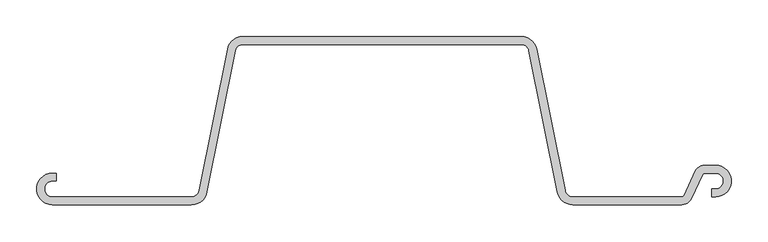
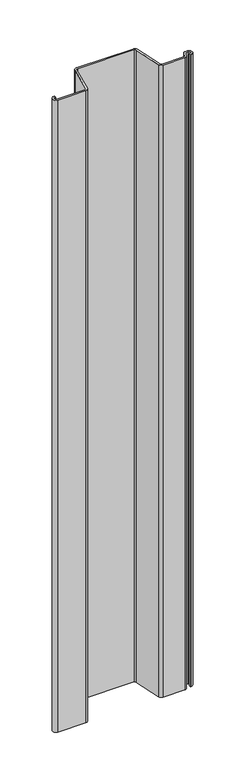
"""IFC4 building model written with IfcOpenShell, lengths in millimetres: proxy geometry, 鋼矢板10H型 : 鋼矢板10H型."""

from ifc_helpers import new_model, si_unit, point, frame, frame_2d, origin, place, context, project, spatial, polyline, circle_curve, trimmed, segment, composite_curve, outline, extrude, source, transform, mapped, element, save


def generic_models_cdec1266(model_context):
    return source(origin(), model_context, "Body", "SweptSolid", [
        extrude(outline(composite_curve([segment(trimmed(circle_curve(frame_2d((409.1972607, -101.1142857)), 13.8857143), [point((421.7819917, -106.9826421))], [point((409.1972607, -115.0))], False, "CARTESIAN"), True, "CONTINUOUS"), segment(polyline([(409.1972607, -115.0), (260.2008232, -115.0)]), True, "CONTINUOUS"), segment(trimmed(circle_curve(frame_2d((260.2008232, -93.4)), 21.6), [point((260.2008232, -115.0))], [point((239.0202806, -97.6361085))], False, "CARTESIAN"), True, "CONTINUOUS"), segment(polyline([(239.0202806, -97.6361085), (200.3894481, 95.5180543)]), True, "CONTINUOUS"), segment(trimmed(circle_curve(frame_2d((189.7991768, 93.4)), 10.8), [point((200.3894481, 95.5180543))], [point((189.7991768, 104.2))], True, "CARTESIAN"), True, "CONTINUOUS"), segment(polyline([(189.7991768, 104.2), (-189.7991768, 104.2)]), True, "CONTINUOUS"), segment(trimmed(circle_curve(frame_2d((-189.7991768, 93.4)), 10.8), [point((-189.7991768, 104.2))], [point((-200.3894481, 95.5180543))], True, "CARTESIAN"), True, "CONTINUOUS"), segment(polyline([(-200.3894481, 95.5180543), (-239.0202806, -97.6361085)]), True, "CONTINUOUS"), segment(trimmed(circle_curve(frame_2d((-260.2008232, -93.4)), 21.6), [point((-239.0202806, -97.6361085))], [point((-260.2008232, -115.0))], False, "CARTESIAN"), True, "CONTINUOUS"), segment(polyline([(-260.2008232, -115.0), (-450.0, -115.0)]), True, "CONTINUOUS"), segment(trimmed(circle_curve(frame_2d((-450.0, -93.4)), 21.6), [point((-450.0, -115.0))], [point((-450.0, -71.8))], False, "CARTESIAN"), True, "CONTINUOUS"), segment(polyline([(-450.0, -71.8), (-445.0, -71.8), (-445.0, -82.6), (-450.0, -82.6)]), True, "CONTINUOUS"), segment(trimmed(circle_curve(frame_2d((-450.0, -93.4)), 10.8), [point((-450.0, -82.6))], [point((-450.0, -104.2))], True, "CARTESIAN"), True, "CONTINUOUS"), segment(polyline([(-450.0, -104.2), (-260.2008232, -104.2)]), True, "CONTINUOUS"), segment(trimmed(circle_curve(frame_2d((-260.2008232, -93.4)), 10.8), [point((-260.2008232, -104.2))], [point((-249.6105519, -95.5180543))], True, "CARTESIAN"), True, "CONTINUOUS"), segment(polyline([(-249.6105519, -95.5180543), (-210.9797194, 97.6361085)]), True, "CONTINUOUS"), segment(trimmed(circle_curve(frame_2d((-189.7991768, 93.4)), 21.6), [point((-210.9797194, 97.6361085))], [point((-189.7991768, 115.0))], False, "CARTESIAN"), True, "CONTINUOUS"), segment(polyline([(-189.7991768, 115.0), (189.7991768, 115.0)]), True, "CONTINUOUS"), segment(trimmed(circle_curve(frame_2d((189.7991768, 93.4)), 21.6), [point((189.7991768, 115.0))], [point((210.9797194, 97.6361085))], False, "CARTESIAN"), True, "CONTINUOUS"), segment(polyline([(210.9797194, 97.6361085), (249.6105519, -95.5180543)]), True, "CONTINUOUS"), segment(trimmed(circle_curve(frame_2d((260.2008232, -93.4)), 10.8), [point((249.6105519, -95.5180543))], [point((260.2008232, -104.2))], True, "CARTESIAN"), True, "CONTINUOUS"), segment(polyline([(260.2008232, -104.2), (409.1972607, -104.2)]), True, "CONTINUOUS"), segment(trimmed(circle_curve(frame_2d((409.1972607, -101.1142857)), 3.0857143), [point((409.1972607, -104.2))], [point((411.9938676, -102.4183649))], True, "CARTESIAN"), True, "CONTINUOUS"), segment(polyline([(411.9938676, -102.4183649), (427.569013, -69.0173579)]), True, "CONTINUOUS"), segment(trimmed(circle_curve(frame_2d((440.153744, -74.8857143)), 13.8857143), [point((427.569013, -69.0173579))], [point((440.153744, -61.0))], False, "CARTESIAN"), True, "CONTINUOUS"), segment(polyline([(440.153744, -61.0), (455.0, -61.0)]), True, "CONTINUOUS"), segment(trimmed(circle_curve(frame_2d((455.0, -82.6)), 21.6), [point((455.0, -61.0))], [point((455.0, -104.2))], False, "CARTESIAN"), True, "CONTINUOUS"), segment(polyline([(455.0, -104.2), (450.0, -104.2), (450.0, -93.4), (455.0, -93.4)]), True, "CONTINUOUS"), segment(trimmed(circle_curve(frame_2d((455.0, -82.6)), 10.8), [point((455.0, -93.4))], [point((455.0, -71.8))], True, "CARTESIAN"), True, "CONTINUOUS"), segment(polyline([(455.0, -71.8), (440.153744, -71.8)]), True, "CONTINUOUS"), segment(trimmed(circle_curve(frame_2d((440.153744, -74.8857143)), 3.0857143), [point((440.153744, -71.8))], [point((437.3571371, -73.5816351))], True, "CARTESIAN"), True, "CONTINUOUS"), segment(polyline([(437.3571371, -73.5816351), (421.7819917, -106.9826421)]), True, "CONTINUOUS")], self_intersect=False)), frame((0.0, 0.0, -4500.0), z_axis=(0.0, 0.0, 1.0), x_axis=(1.0, 0.0, 0.0)), (0.0, 0.0, 1.0), 4500.0),
    ])


if __name__ == "__main__":
    model = new_model("IFC4")
    model_context = context("Model", 3, world=origin())
    ifc_project = project(units=[si_unit("LENGTHUNIT", "METRE", prefix="MILLI")], contexts=[model_context])
    site = spatial("IfcSite", under=ifc_project)
    building = spatial("IfcBuilding", under=site)
    placement = place(None, origin())
    generic_models_shape = generic_models_cdec1266(model_context)
    element("IfcBuildingElementProxy", 1, Name="鋼矢板10H型 : 鋼矢板10H型", ObjectType="鋼矢板10H型 : 鋼矢板10H型", at=placement, inside=building, context=model_context, shape_type="MappedRepresentation", body=[
        mapped(generic_models_shape, transform((0.0, 0.0, 0.0), x_axis=(1.0, 0.0, 0.0), y_axis=(0.0, 1.0, 0.0), z_axis=(0.0, 0.0, 1.0))),
    ])
    save(model, "model.ifc")
